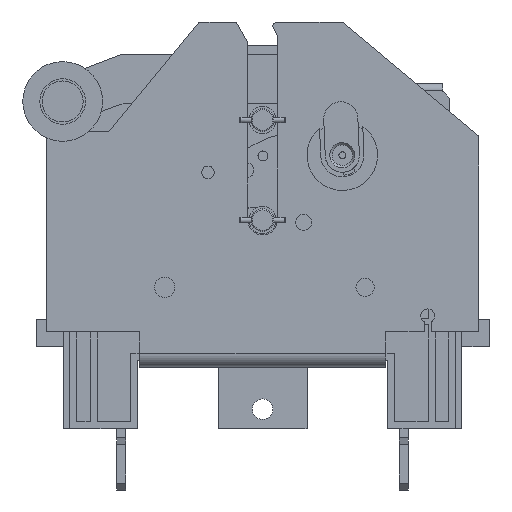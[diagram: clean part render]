
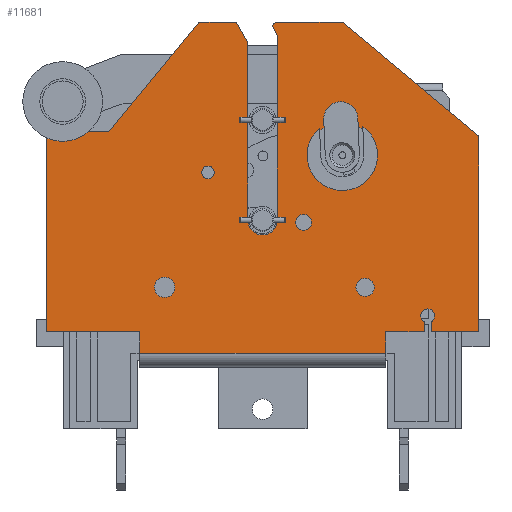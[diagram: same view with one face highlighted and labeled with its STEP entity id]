
A CAD part, left-side view. The second image highlights one B-rep face of the part: STEP entity #11681.
In plain terms, the highlighted planar face has unit normal (-1, 0, 0).
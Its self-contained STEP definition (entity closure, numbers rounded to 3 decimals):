
#11681=ADVANCED_FACE('',(#14948,#14949,#14950,#14951,#14952,#14953),#13952,
 .T.);
#13952=PLANE('',#58404);
#14948=FACE_BOUND('',#17370,.T.);
#14949=FACE_BOUND('',#17371,.T.);
#14950=FACE_BOUND('',#17372,.T.);
#14951=FACE_BOUND('',#17373,.T.);
#14952=FACE_BOUND('',#17374,.T.);
#14953=FACE_BOUND('',#17375,.T.);
#17370=EDGE_LOOP('',(#38597));
#17371=EDGE_LOOP('',(#38598));
#17372=EDGE_LOOP('',(#38599,#38600,#38601,#38602,#38603,#38604,#38605,#38606,
#38607,#38608,#38609,#38610,#38611,#38612,#38613,#38614,#38615,#38616,#38617,
#38618,#38619,#38620));
#17373=EDGE_LOOP('',(#38621));
#17374=EDGE_LOOP('',(#38622));
#17375=EDGE_LOOP('',(#38623));
#22474=LINE('',#83346,#27697);
#22480=LINE('',#83360,#27703);
#22519=LINE('',#83455,#27742);
#22533=LINE('',#83492,#27756);
#22539=LINE('',#83503,#27762);
#22541=LINE('',#83517,#27764);
#22542=LINE('',#83518,#27765);
#22543=LINE('',#83520,#27766);
#22544=LINE('',#83524,#27767);
#22545=LINE('',#83526,#27768);
#22546=LINE('',#83530,#27769);
#22547=LINE('',#83532,#27770);
#22548=LINE('',#83534,#27771);
#22549=LINE('',#83536,#27772);
#22550=LINE('',#83537,#27773);
#22551=LINE('',#83539,#27774);
#22552=LINE('',#83541,#27775);
#22553=LINE('',#83543,#27776);
#22554=LINE('',#83544,#27777);
#27697=VECTOR('',#68877,1.);
#27703=VECTOR('',#68885,1.);
#27742=VECTOR('',#68946,1.);
#27756=VECTOR('',#68972,1.);
#27762=VECTOR('',#68988,1.);
#27764=VECTOR('',#69004,1.);
#27765=VECTOR('',#69005,1.);
#27766=VECTOR('',#69006,1.);
#27767=VECTOR('',#69009,1.);
#27768=VECTOR('',#69010,1.);
#27769=VECTOR('',#69013,1.);
#27770=VECTOR('',#69014,1.);
#27771=VECTOR('',#69015,1.);
#27772=VECTOR('',#69016,1.);
#27773=VECTOR('',#69017,1.);
#27774=VECTOR('',#69018,1.);
#27775=VECTOR('',#69019,1.);
#27776=VECTOR('',#69020,1.);
#27777=VECTOR('',#69021,1.);
#38597=ORIENTED_EDGE('',*,*,#52311,.F.);
#38598=ORIENTED_EDGE('',*,*,#52312,.T.);
#38599=ORIENTED_EDGE('',*,*,#52313,.T.);
#38600=ORIENTED_EDGE('',*,*,#52314,.T.);
#38601=ORIENTED_EDGE('',*,*,#52229,.F.);
#38602=ORIENTED_EDGE('',*,*,#52301,.F.);
#38603=ORIENTED_EDGE('',*,*,#52315,.T.);
#38604=ORIENTED_EDGE('',*,*,#52316,.T.);
#38605=ORIENTED_EDGE('',*,*,#52317,.T.);
#38606=ORIENTED_EDGE('',*,*,#52318,.F.);
#38607=ORIENTED_EDGE('',*,*,#52319,.F.);
#38608=ORIENTED_EDGE('',*,*,#52320,.F.);
#38609=ORIENTED_EDGE('',*,*,#52321,.F.);
#38610=ORIENTED_EDGE('',*,*,#52322,.T.);
#38611=ORIENTED_EDGE('',*,*,#52323,.T.);
#38612=ORIENTED_EDGE('',*,*,#52324,.T.);
#38613=ORIENTED_EDGE('',*,*,#52283,.T.);
#38614=ORIENTED_EDGE('',*,*,#52325,.T.);
#38615=ORIENTED_EDGE('',*,*,#52326,.F.);
#38616=ORIENTED_EDGE('',*,*,#52327,.T.);
#38617=ORIENTED_EDGE('',*,*,#52328,.T.);
#38618=ORIENTED_EDGE('',*,*,#52307,.F.);
#38619=ORIENTED_EDGE('',*,*,#52235,.F.);
#38620=ORIENTED_EDGE('',*,*,#52329,.F.);
#38621=ORIENTED_EDGE('',*,*,#52330,.T.);
#38622=ORIENTED_EDGE('',*,*,#52331,.F.);
#38623=ORIENTED_EDGE('',*,*,#52332,.F.);
#45995=VERTEX_POINT('',#83347);
#45996=VERTEX_POINT('',#83348);
#46001=VERTEX_POINT('',#83359);
#46002=VERTEX_POINT('',#83361);
#46045=VERTEX_POINT('',#83452);
#46046=VERTEX_POINT('',#83454);
#46063=VERTEX_POINT('',#83491);
#46064=VERTEX_POINT('',#83504);
#46065=VERTEX_POINT('',#83511);
#46066=VERTEX_POINT('',#83513);
#46067=VERTEX_POINT('',#83515);
#46068=VERTEX_POINT('',#83516);
#46069=VERTEX_POINT('',#83519);
#46070=VERTEX_POINT('',#83521);
#46071=VERTEX_POINT('',#83523);
#46072=VERTEX_POINT('',#83525);
#46073=VERTEX_POINT('',#83527);
#46074=VERTEX_POINT('',#83529);
#46075=VERTEX_POINT('',#83531);
#46076=VERTEX_POINT('',#83533);
#46077=VERTEX_POINT('',#83535);
#46078=VERTEX_POINT('',#83538);
#46079=VERTEX_POINT('',#83540);
#46080=VERTEX_POINT('',#83542);
#46081=VERTEX_POINT('',#83546);
#46082=VERTEX_POINT('',#83548);
#46083=VERTEX_POINT('',#83550);
#52229=EDGE_CURVE('',#45995,#45996,#22474,.T.);
#52235=EDGE_CURVE('',#46001,#46002,#22480,.T.);
#52283=EDGE_CURVE('',#46045,#46046,#22519,.T.);
#52301=EDGE_CURVE('',#46063,#45995,#22533,.T.);
#52307=EDGE_CURVE('',#46002,#46064,#22539,.T.);
#52311=EDGE_CURVE('',#46065,#46065,#55192,.T.);
#52312=EDGE_CURVE('',#46066,#46066,#55193,.T.);
#52313=EDGE_CURVE('',#46067,#46068,#55194,.T.);
#52314=EDGE_CURVE('',#46068,#45996,#22541,.T.);
#52315=EDGE_CURVE('',#46063,#46069,#22542,.T.);
#52316=EDGE_CURVE('',#46069,#46070,#22543,.T.);
#52317=EDGE_CURVE('',#46070,#46071,#55195,.T.);
#52318=EDGE_CURVE('',#46072,#46071,#22544,.T.);
#52319=EDGE_CURVE('',#46073,#46072,#22545,.T.);
#52320=EDGE_CURVE('',#46074,#46073,#55196,.T.);
#52321=EDGE_CURVE('',#46075,#46074,#22546,.T.);
#52322=EDGE_CURVE('',#46075,#46076,#22547,.T.);
#52323=EDGE_CURVE('',#46076,#46077,#22548,.T.);
#52324=EDGE_CURVE('',#46077,#46045,#22549,.T.);
#52325=EDGE_CURVE('',#46046,#46078,#22550,.T.);
#52326=EDGE_CURVE('',#46079,#46078,#22551,.T.);
#52327=EDGE_CURVE('',#46079,#46080,#22552,.T.);
#52328=EDGE_CURVE('',#46080,#46064,#22553,.T.);
#52329=EDGE_CURVE('',#46067,#46001,#22554,.T.);
#52330=EDGE_CURVE('',#46081,#46081,#55197,.T.);
#52331=EDGE_CURVE('',#46082,#46082,#55198,.T.);
#52332=EDGE_CURVE('',#46083,#46083,#55199,.T.);
#55192=CIRCLE('',#58396,10.5);
#55193=CIRCLE('',#58397,3.5);
#55194=CIRCLE('',#58398,3.);
#55195=CIRCLE('',#58399,2.);
#55196=CIRCLE('',#58400,6.5);
#55197=CIRCLE('',#58401,2.75);
#55198=CIRCLE('',#58402,4.5);
#55199=CIRCLE('',#58403,4.);
#58396=AXIS2_PLACEMENT_3D('',#83510,#68998,#68999);
#58397=AXIS2_PLACEMENT_3D('',#83512,#69000,#69001);
#58398=AXIS2_PLACEMENT_3D('',#83514,#69002,#69003);
#58399=AXIS2_PLACEMENT_3D('',#83522,#69007,#69008);
#58400=AXIS2_PLACEMENT_3D('',#83528,#69011,#69012);
#58401=AXIS2_PLACEMENT_3D('',#83545,#69022,#69023);
#58402=AXIS2_PLACEMENT_3D('',#83547,#69024,#69025);
#58403=AXIS2_PLACEMENT_3D('',#83549,#69026,#69027);
#58404=AXIS2_PLACEMENT_3D('',#83551,#69028,#69029);
#68877=DIRECTION('',(0.,1.,0.));
#68885=DIRECTION('',(0.,1.,0.));
#68946=DIRECTION('',(0.,1.,0.));
#68972=DIRECTION('',(0.,0.,-1.));
#68988=DIRECTION('',(0.,0.,-1.));
#68998=DIRECTION('',(-1.,0.,0.));
#68999=DIRECTION('',(0.,0.,1.));
#69000=DIRECTION('',(1.,0.,0.));
#69001=DIRECTION('',(0.,0.,1.));
#69002=DIRECTION('',(1.,0.,0.));
#69003=DIRECTION('',(0.,-1.,0.));
#69004=DIRECTION('',(0.,0.,-1.));
#69005=DIRECTION('',(0.,0.768,0.64));
#69006=DIRECTION('',(0.,1.,0.));
#69007=DIRECTION('',(-1.,0.,0.));
#69008=DIRECTION('',(0.,0.,-1.));
#69009=DIRECTION('',(0.,0.447,0.894));
#69010=DIRECTION('',(0.,0.,1.));
#69011=DIRECTION('',(-1.,0.,0.));
#69012=DIRECTION('',(0.,0.,-1.));
#69013=DIRECTION('',(0.,0.,-1.));
#69014=DIRECTION('',(0.,0.486,0.874));
#69015=DIRECTION('',(0.,1.,0.));
#69016=DIRECTION('',(0.,0.635,-0.772));
#69017=DIRECTION('',(0.,0.,-1.));
#69018=DIRECTION('',(0.,1.,0.));
#69019=DIRECTION('',(0.,0.,-1.));
#69020=DIRECTION('',(0.,-1.,0.));
#69021=DIRECTION('',(0.,0.,-1.));
#69022=DIRECTION('',(1.,0.,0.));
#69023=DIRECTION('',(0.,0.,-1.));
#69024=DIRECTION('',(-1.,0.,0.));
#69025=DIRECTION('',(0.,0.,-1.));
#69026=DIRECTION('',(-1.,0.,0.));
#69027=DIRECTION('',(0.,0.,1.));
#69028=DIRECTION('',(-1.,0.,0.));
#69029=DIRECTION('',(0.,0.,-1.));
#83346=CARTESIAN_POINT('',(138.462,46.807,-30.5));
#83347=CARTESIAN_POINT('',(138.462,-11.943,-30.5));
#83348=CARTESIAN_POINT('',(138.462,9.057,-30.5));
#83359=CARTESIAN_POINT('',(138.462,12.057,-30.5));
#83360=CARTESIAN_POINT('',(138.462,46.807,-30.5));
#83361=CARTESIAN_POINT('',(138.462,29.057,-30.5));
#83452=CARTESIAN_POINT('',(138.462,150.557,57.5));
#83454=CARTESIAN_POINT('',(138.462,178.057,57.5));
#83455=CARTESIAN_POINT('',(138.462,46.807,57.5));
#83491=CARTESIAN_POINT('',(138.462,-11.943,55.5));
#83492=CARTESIAN_POINT('',(138.462,-11.943,105.5));
#83503=CARTESIAN_POINT('',(138.462,29.057,105.5));
#83504=CARTESIAN_POINT('',(138.462,29.057,-40.));
#83510=CARTESIAN_POINT('',(138.462,48.057,47.));
#83511=CARTESIAN_POINT('',(138.462,48.057,57.5));
#83512=CARTESIAN_POINT('',(138.462,65.057,17.5));
#83513=CARTESIAN_POINT('',(138.462,65.057,21.));
#83514=CARTESIAN_POINT('',(138.462,10.557,-23.5));
#83515=CARTESIAN_POINT('',(138.462,12.057,-26.098));
#83516=CARTESIAN_POINT('',(138.462,9.057,-26.098));
#83517=CARTESIAN_POINT('',(138.462,9.057,-15.5));
#83518=CARTESIAN_POINT('',(138.462,47.319,104.885));
#83519=CARTESIAN_POINT('',(138.462,48.057,105.5));
#83520=CARTESIAN_POINT('',(138.462,46.807,105.5));
#83521=CARTESIAN_POINT('',(138.462,76.557,105.5));
#83522=CARTESIAN_POINT('',(138.462,76.557,103.5));
#83523=CARTESIAN_POINT('',(138.462,78.557,103.5));
#83524=CARTESIAN_POINT('',(138.462,73.007,92.4));
#83525=CARTESIAN_POINT('',(138.462,76.557,99.5));
#83526=CARTESIAN_POINT('',(138.462,76.557,105.5));
#83527=CARTESIAN_POINT('',(138.462,76.557,18.5));
#83528=CARTESIAN_POINT('',(138.462,83.057,18.5));
#83529=CARTESIAN_POINT('',(138.462,89.557,18.5));
#83530=CARTESIAN_POINT('',(138.462,89.557,105.5));
#83531=CARTESIAN_POINT('',(138.462,89.557,96.5));
#83532=CARTESIAN_POINT('',(138.462,83.295,85.229));
#83533=CARTESIAN_POINT('',(138.462,94.557,105.5));
#83534=CARTESIAN_POINT('',(138.462,46.807,105.5));
#83535=CARTESIAN_POINT('',(138.462,111.057,105.5));
#83536=CARTESIAN_POINT('',(138.462,85.115,137.024));
#83537=CARTESIAN_POINT('',(138.462,178.057,105.5));
#83538=CARTESIAN_POINT('',(138.462,178.057,-30.5));
#83539=CARTESIAN_POINT('',(138.462,46.807,-30.5));
#83540=CARTESIAN_POINT('',(138.462,137.057,-30.5));
#83541=CARTESIAN_POINT('',(138.462,137.057,105.5));
#83542=CARTESIAN_POINT('',(138.462,137.057,-40.));
#83543=CARTESIAN_POINT('',(138.462,29.057,-40.));
#83544=CARTESIAN_POINT('',(138.462,12.057,-15.5));
#83545=CARTESIAN_POINT('',(138.462,107.057,39.5));
#83546=CARTESIAN_POINT('',(138.462,107.057,36.75));
#83547=CARTESIAN_POINT('',(138.462,126.057,-11.));
#83548=CARTESIAN_POINT('',(138.462,126.057,-15.5));
#83549=CARTESIAN_POINT('',(138.462,38.057,-11.));
#83550=CARTESIAN_POINT('',(138.462,38.057,-7.));
#83551=CARTESIAN_POINT('',(138.462,46.807,105.5));
